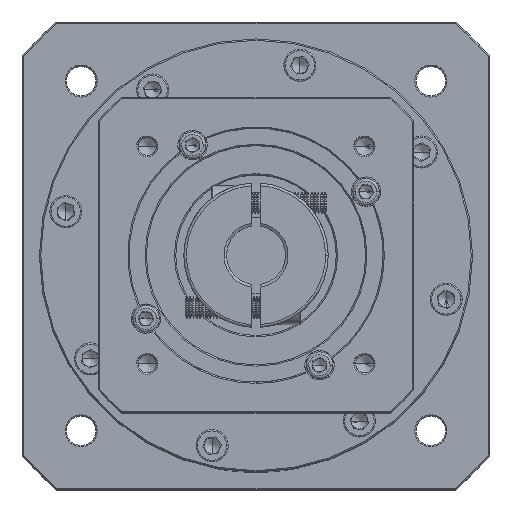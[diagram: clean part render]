
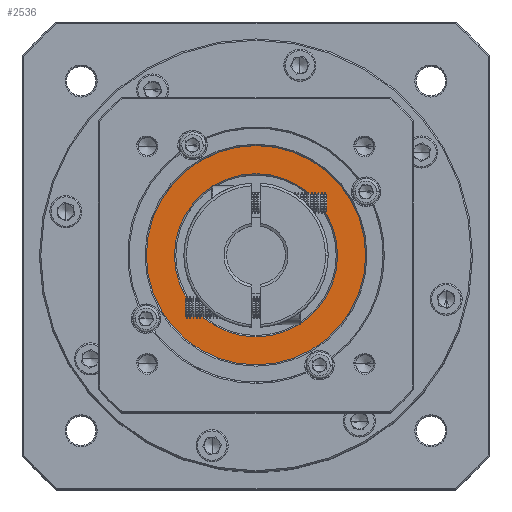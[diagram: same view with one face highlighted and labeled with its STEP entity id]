
A CAD part, top view. The second image highlights one B-rep face of the part: STEP entity #2536.
In plain terms, the highlighted planar face has unit normal (0, 0, 1).
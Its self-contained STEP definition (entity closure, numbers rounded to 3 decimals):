
#1029 = EDGE_CURVE ( 'NONE', #83440, #41906, #69603, .T. ) ;
#2536 = ADVANCED_FACE ( 'NONE', ( #43591, #61838 ), #20489, .T. ) ;
#2825 = CIRCLE ( 'NONE', #30759, 30.5 ) ;
#8581 = AXIS2_PLACEMENT_3D ( 'NONE', #19599, #77677, #28981 ) ;
#10525 = CARTESIAN_POINT ( 'NONE',  ( -8.013, -121.1, 62.931 ) ) ;
#11363 = CARTESIAN_POINT ( 'NONE',  ( -49.013, -121.1, 62.931 ) ) ;
#15897 = EDGE_CURVE ( 'NONE', #58016, #98365, #23342, .T. ) ;
#17088 = DIRECTION ( 'NONE',  ( 0., 0., -1. ) ) ;
#19599 = CARTESIAN_POINT ( 'NONE',  ( -49.013, -121.1, 62.931 ) ) ;
#20489 = PLANE ( 'NONE',  #95716 ) ;
#23342 = CIRCLE ( 'NONE', #94137, 30.5 ) ;
#24328 = DIRECTION ( 'NONE',  ( 1., 0., 0. ) ) ;
#25341 = EDGE_CURVE ( 'NONE', #41906, #83440, #35817, .T. ) ;
#28981 = DIRECTION ( 'NONE',  ( 1., 0., 0. ) ) ;
#30759 = AXIS2_PLACEMENT_3D ( 'NONE', #57393, #17088, #65369 ) ;
#35203 = CARTESIAN_POINT ( 'NONE',  ( -90.013, -121.1, 62.931 ) ) ;
#35769 = DIRECTION ( 'NONE',  ( 0., 0., 1. ) ) ;
#35817 = CIRCLE ( 'NONE', #41833, 41. ) ;
#37675 = CARTESIAN_POINT ( 'NONE',  ( -49.013, -121.1, 62.931 ) ) ;
#41833 = AXIS2_PLACEMENT_3D ( 'NONE', #65713, #98305, #24328 ) ;
#41906 = VERTEX_POINT ( 'NONE', #35203 ) ;
#43591 = FACE_OUTER_BOUND ( 'NONE', #93544, .T. ) ;
#46601 = ORIENTED_EDGE ( 'NONE', *, *, #82647, .T. ) ;
#47874 = ORIENTED_EDGE ( 'NONE', *, *, #15897, .T. ) ;
#50831 = CARTESIAN_POINT ( 'NONE',  ( -18.513, -121.1, 62.931 ) ) ;
#51857 = ORIENTED_EDGE ( 'NONE', *, *, #1029, .T. ) ;
#52529 = DIRECTION ( 'NONE',  ( 1., 0., 0. ) ) ;
#53371 = DIRECTION ( 'NONE',  ( 1., 0., 0. ) ) ;
#57393 = CARTESIAN_POINT ( 'NONE',  ( -49.013, -121.1, 62.931 ) ) ;
#58016 = VERTEX_POINT ( 'NONE', #50831 ) ;
#61838 = FACE_BOUND ( 'NONE', #88529, .T. ) ;
#62364 = CARTESIAN_POINT ( 'NONE',  ( -79.513, -121.1, 62.931 ) ) ;
#65369 = DIRECTION ( 'NONE',  ( 1., 0., 0. ) ) ;
#65713 = CARTESIAN_POINT ( 'NONE',  ( -49.013, -121.1, 62.931 ) ) ;
#69603 = CIRCLE ( 'NONE', #8581, 41. ) ;
#77677 = DIRECTION ( 'NONE',  ( 0., 0., 1. ) ) ;
#82647 = EDGE_CURVE ( 'NONE', #98365, #58016, #2825, .T. ) ;
#83440 = VERTEX_POINT ( 'NONE', #10525 ) ;
#85632 = ORIENTED_EDGE ( 'NONE', *, *, #25341, .T. ) ;
#88529 = EDGE_LOOP ( 'NONE', ( #47874, #46601 ) ) ;
#93544 = EDGE_LOOP ( 'NONE', ( #51857, #85632 ) ) ;
#94137 = AXIS2_PLACEMENT_3D ( 'NONE', #37675, #102971, #53371 ) ;
#95716 = AXIS2_PLACEMENT_3D ( 'NONE', #11363, #35769, #52529 ) ;
#98305 = DIRECTION ( 'NONE',  ( 0., 0., 1. ) ) ;
#98365 = VERTEX_POINT ( 'NONE', #62364 ) ;
#102971 = DIRECTION ( 'NONE',  ( 0., 0., -1. ) ) ;
